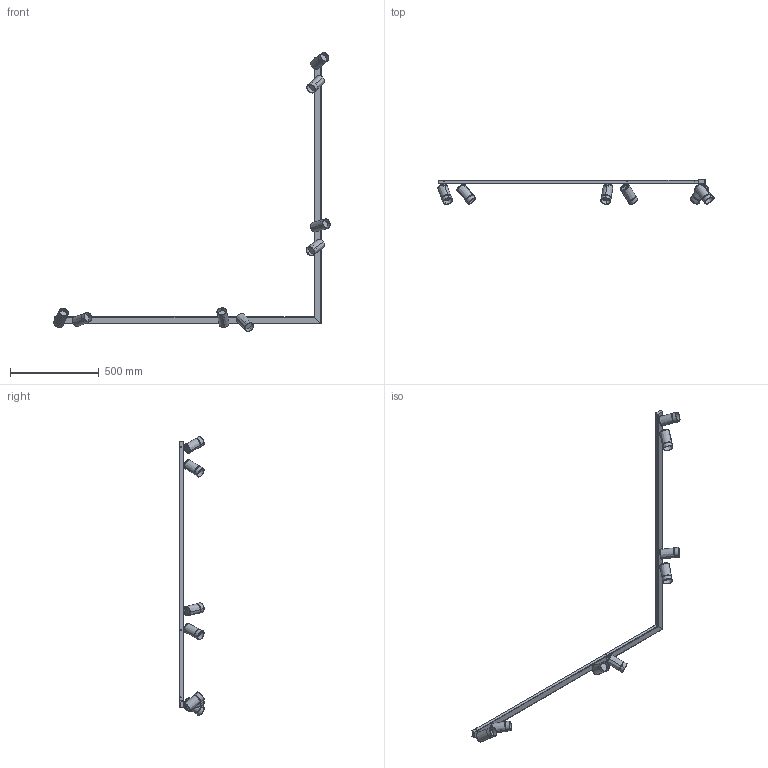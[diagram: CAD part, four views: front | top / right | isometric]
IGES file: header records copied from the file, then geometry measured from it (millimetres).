
Start section: SolidWorks IGES file using analytic representation for surfaces
Global section: file name: Z:\Modele 3D_WWW\_KOLEKCJE_WWW\MONO\MONO-CORNER\MONO-CORNER-VIII-2X150-BRASS-7755\MONO-CORNER-VIII-2X150-BRASS-7755.IGS; native system: SolidWorks 2021; preprocessor: SolidWorks 2021; author: gabriela.tworek; date: 210819.141535; units: millimetre
Bounding box: 1554.92 x 135.98 x 1568.01 mm (x, y, z)
Surface area: 863071.7 mm2 (no closed solid volume)
Topology: 0 solids, 0 shells, 1238 faces, 21776 edges, 21768 vertices
Faces by surface type: revolution 696, bspline 542
